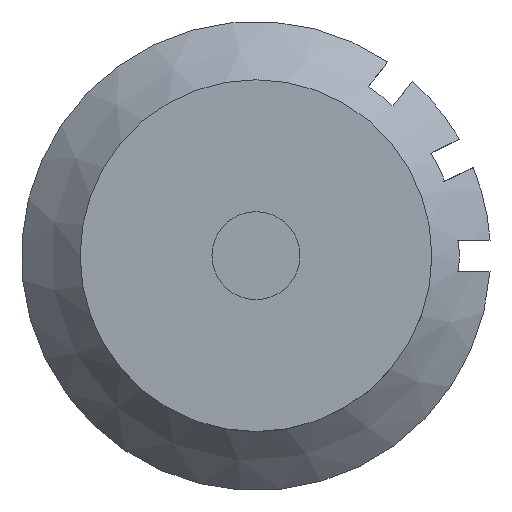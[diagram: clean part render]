
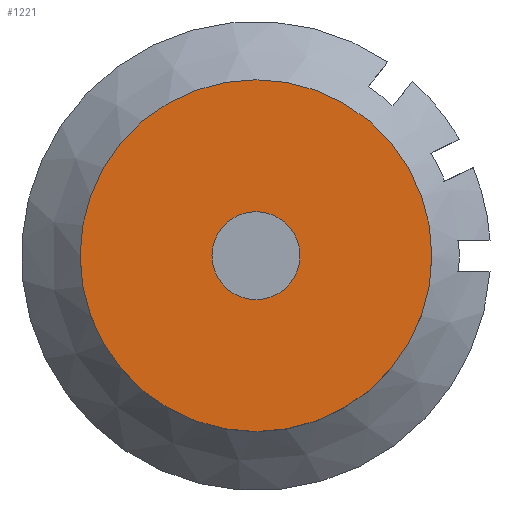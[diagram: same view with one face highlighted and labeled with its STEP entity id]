
A CAD part, top view. The second image highlights one B-rep face of the part: STEP entity #1221.
In plain terms, the highlighted planar face has unit normal (0, 0, 1).
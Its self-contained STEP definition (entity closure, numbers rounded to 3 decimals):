
#801 = CYLINDRICAL_SURFACE('',#802,4.2);
#802 = AXIS2_PLACEMENT_3D('',#803,#804,#805);
#803 = CARTESIAN_POINT('',(5.5,-14.,24.4));
#804 = DIRECTION('',(-0.,-0.,-1.));
#805 = DIRECTION('',(1.,0.,0.));
#1154 = VERTEX_POINT('',#1155);
#1155 = CARTESIAN_POINT('',(9.7,-14.,28.8));
#1176 = EDGE_CURVE('',#1154,#1154,#1177,.T.);
#1177 = SURFACE_CURVE('',#1178,(#1183,#1190),.PCURVE_S1.);
#1178 = CIRCLE('',#1179,4.2);
#1179 = AXIS2_PLACEMENT_3D('',#1180,#1181,#1182);
#1180 = CARTESIAN_POINT('',(5.5,-14.,28.8));
#1181 = DIRECTION('',(0.,0.,1.));
#1182 = DIRECTION('',(1.,0.,0.));
#1183 = PCURVE('',#801,#1184);
#1184 = DEFINITIONAL_REPRESENTATION('',(#1185),#1189);
#1185 = LINE('',#1186,#1187);
#1186 = CARTESIAN_POINT('',(-0.,-4.4));
#1187 = VECTOR('',#1188,1.);
#1188 = DIRECTION('',(-1.,0.));
#1189 = ( GEOMETRIC_REPRESENTATION_CONTEXT(2) 
PARAMETRIC_REPRESENTATION_CONTEXT() REPRESENTATION_CONTEXT('2D SPACE',''
  ) );
#1190 = PCURVE('',#1191,#1196);
#1191 = PLANE('',#1192);
#1192 = AXIS2_PLACEMENT_3D('',#1193,#1194,#1195);
#1193 = CARTESIAN_POINT('',(5.5,-14.,28.8));
#1194 = DIRECTION('',(0.,0.,1.));
#1195 = DIRECTION('',(1.,0.,-0.));
#1196 = DEFINITIONAL_REPRESENTATION('',(#1197),#1201);
#1197 = CIRCLE('',#1198,4.2);
#1198 = AXIS2_PLACEMENT_2D('',#1199,#1200);
#1199 = CARTESIAN_POINT('',(0.,0.));
#1200 = DIRECTION('',(1.,0.));
#1201 = ( GEOMETRIC_REPRESENTATION_CONTEXT(2) 
PARAMETRIC_REPRESENTATION_CONTEXT() REPRESENTATION_CONTEXT('2D SPACE',''
  ) );
#1221 = ADVANCED_FACE('',(#1222,#1225),#1191,.T.);
#1222 = FACE_BOUND('',#1223,.T.);
#1223 = EDGE_LOOP('',(#1224));
#1224 = ORIENTED_EDGE('',*,*,#1176,.T.);
#1225 = FACE_BOUND('',#1226,.T.);
#1226 = EDGE_LOOP('',(#1227));
#1227 = ORIENTED_EDGE('',*,*,#1228,.T.);
#1228 = EDGE_CURVE('',#1229,#1229,#1231,.T.);
#1229 = VERTEX_POINT('',#1230);
#1230 = CARTESIAN_POINT('',(6.55,-14.,28.8));
#1231 = SURFACE_CURVE('',#1232,(#1237,#1248),.PCURVE_S1.);
#1232 = CIRCLE('',#1233,1.05);
#1233 = AXIS2_PLACEMENT_3D('',#1234,#1235,#1236);
#1234 = CARTESIAN_POINT('',(5.5,-14.,28.8));
#1235 = DIRECTION('',(0.,0.,-1.));
#1236 = DIRECTION('',(1.,0.,0.));
#1237 = PCURVE('',#1191,#1238);
#1238 = DEFINITIONAL_REPRESENTATION('',(#1239),#1247);
#1239 = ( BOUNDED_CURVE() B_SPLINE_CURVE(2,(#1240,#1241,#1242,#1243,
#1244,#1245,#1246),.UNSPECIFIED.,.T.,.F.) B_SPLINE_CURVE_WITH_KNOTS((1,2
    ,2,2,2,1),(-2.094,0.,2.094,4.189,
6.283,8.378),.UNSPECIFIED.) CURVE() 
GEOMETRIC_REPRESENTATION_ITEM() RATIONAL_B_SPLINE_CURVE((1.,0.5,1.,0.5,
1.,0.5,1.)) REPRESENTATION_ITEM('') );
#1240 = CARTESIAN_POINT('',(1.05,0.));
#1241 = CARTESIAN_POINT('',(1.05,-1.819));
#1242 = CARTESIAN_POINT('',(-0.525,-0.909));
#1243 = CARTESIAN_POINT('',(-2.1,0.));
#1244 = CARTESIAN_POINT('',(-0.525,0.909));
#1245 = CARTESIAN_POINT('',(1.05,1.819));
#1246 = CARTESIAN_POINT('',(1.05,0.));
#1247 = ( GEOMETRIC_REPRESENTATION_CONTEXT(2) 
PARAMETRIC_REPRESENTATION_CONTEXT() REPRESENTATION_CONTEXT('2D SPACE',''
  ) );
#1248 = PCURVE('',#1249,#1254);
#1249 = CYLINDRICAL_SURFACE('',#1250,1.05);
#1250 = AXIS2_PLACEMENT_3D('',#1251,#1252,#1253);
#1251 = CARTESIAN_POINT('',(5.5,-14.,28.45));
#1252 = DIRECTION('',(-0.,-0.,-1.));
#1253 = DIRECTION('',(1.,0.,0.));
#1254 = DEFINITIONAL_REPRESENTATION('',(#1255),#1259);
#1255 = LINE('',#1256,#1257);
#1256 = CARTESIAN_POINT('',(-6.283,-0.35));
#1257 = VECTOR('',#1258,1.);
#1258 = DIRECTION('',(1.,-0.));
#1259 = ( GEOMETRIC_REPRESENTATION_CONTEXT(2) 
PARAMETRIC_REPRESENTATION_CONTEXT() REPRESENTATION_CONTEXT('2D SPACE',''
  ) );
